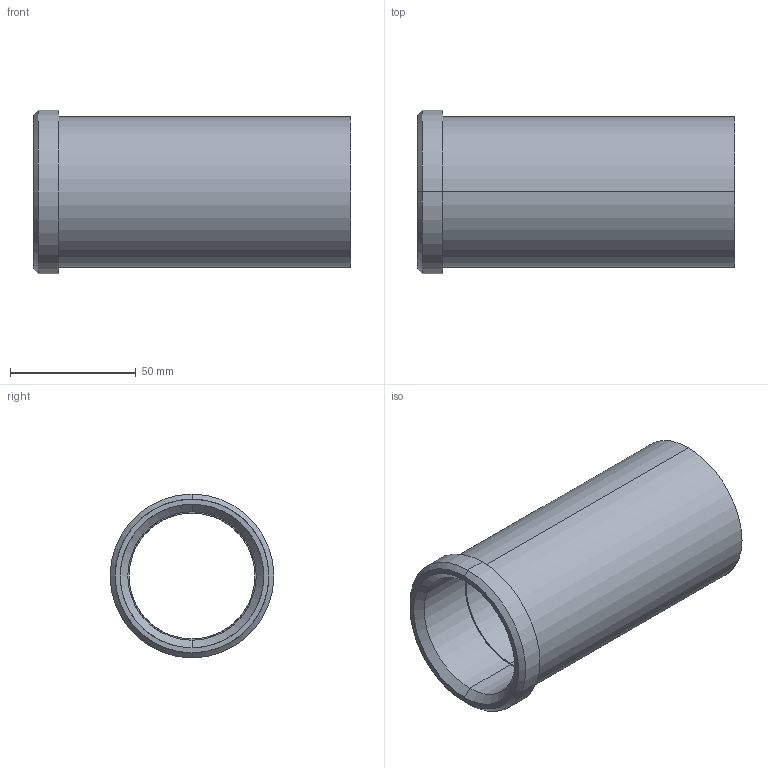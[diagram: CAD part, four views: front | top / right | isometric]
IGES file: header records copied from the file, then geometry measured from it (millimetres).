
Start section: START RECORD GO HERE.
Global section: file name: 353-50X126.igs; native system: DASSAULT SYSTEMES CATIA V5 R20 - www.3ds.com; preprocessor: CATIA Version 5 Release 20 ; author: Utente; organization: NB04-ASUS; date: 20210514.152019; units: millimetre
Bounding box: 126 x 65 x 65 mm (x, y, z)
Surface area: 45843.5 mm2 (no closed solid volume)
Topology: 0 solids, 0 shells, 18 faces, 116 edges, 116 vertices
Faces by surface type: revolution 14, plane 4
